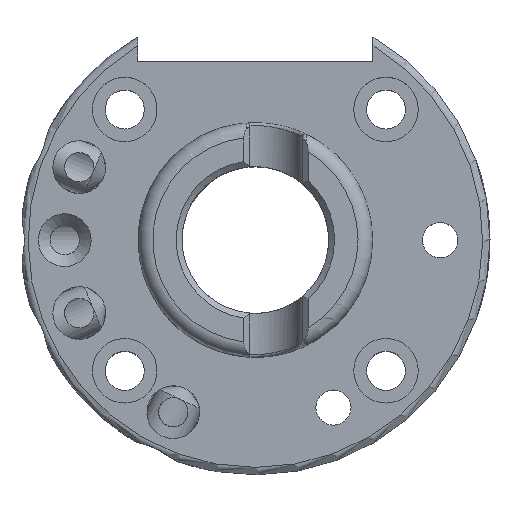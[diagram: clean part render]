
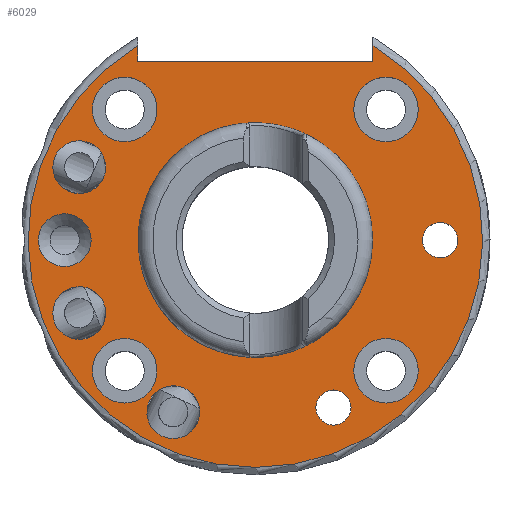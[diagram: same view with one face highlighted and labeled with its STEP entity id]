
A CAD part, top view. The second image highlights one B-rep face of the part: STEP entity #6029.
In plain terms, the highlighted planar face has unit normal (0, 0, 1).
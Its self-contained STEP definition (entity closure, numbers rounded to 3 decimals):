
#95=CIRCLE('',#6169,38.75);
#116=CIRCLE('',#6214,4.5);
#122=CIRCLE('',#6226,4.5);
#128=CIRCLE('',#6238,4.5);
#134=CIRCLE('',#6251,4.5);
#140=CIRCLE('',#6268,3.);
#142=CIRCLE('',#6271,3.);
#146=CIRCLE('',#6277,5.5);
#150=CIRCLE('',#6284,5.5);
#154=CIRCLE('',#6291,5.5);
#158=CIRCLE('',#6298,5.5);
#160=CIRCLE('',#6305,20.);
#202=FACE_BOUND('',#1050,.T.);
#203=FACE_BOUND('',#1051,.T.);
#204=FACE_BOUND('',#1052,.T.);
#205=FACE_BOUND('',#1053,.T.);
#206=FACE_BOUND('',#1054,.T.);
#207=FACE_BOUND('',#1055,.T.);
#208=FACE_BOUND('',#1056,.T.);
#209=FACE_BOUND('',#1057,.T.);
#210=FACE_BOUND('',#1058,.T.);
#211=FACE_BOUND('',#1059,.T.);
#212=FACE_BOUND('',#1060,.T.);
#689=FACE_OUTER_BOUND('',#1049,.T.);
#1049=EDGE_LOOP('',(#5363,#5364,#5365,#5366));
#1050=EDGE_LOOP('',(#5367));
#1051=EDGE_LOOP('',(#5368));
#1052=EDGE_LOOP('',(#5369));
#1053=EDGE_LOOP('',(#5370));
#1054=EDGE_LOOP('',(#5371));
#1055=EDGE_LOOP('',(#5372));
#1056=EDGE_LOOP('',(#5373));
#1057=EDGE_LOOP('',(#5374));
#1058=EDGE_LOOP('',(#5375));
#1059=EDGE_LOOP('',(#5376));
#1060=EDGE_LOOP('',(#5377));
#1487=LINE('',#13298,#1905);
#1489=LINE('',#13303,#1907);
#1492=LINE('',#13307,#1910);
#1905=VECTOR('',#7206,10.);
#1907=VECTOR('',#7210,10.);
#1910=VECTOR('',#7215,10.);
#2707=VERTEX_POINT('',#11182);
#2708=VERTEX_POINT('',#11193);
#2786=VERTEX_POINT('',#13014);
#2793=VERTEX_POINT('',#13074);
#2800=VERTEX_POINT('',#13134);
#2807=VERTEX_POINT('',#13195);
#2815=VERTEX_POINT('',#13230);
#2817=VERTEX_POINT('',#13236);
#2821=VERTEX_POINT('',#13247);
#2825=VERTEX_POINT('',#13260);
#2829=VERTEX_POINT('',#13273);
#2833=VERTEX_POINT('',#13286);
#2836=VERTEX_POINT('',#13296);
#2838=VERTEX_POINT('',#13302);
#2839=VERTEX_POINT('',#13309);
#3481=EDGE_CURVE('',#2707,#2708,#95,.T.);
#3606=EDGE_CURVE('',#2786,#2786,#116,.T.);
#3618=EDGE_CURVE('',#2793,#2793,#122,.T.);
#3630=EDGE_CURVE('',#2800,#2800,#128,.T.);
#3642=EDGE_CURVE('',#2807,#2807,#134,.T.);
#3658=EDGE_CURVE('',#2815,#2815,#140,.T.);
#3661=EDGE_CURVE('',#2817,#2817,#142,.T.);
#3666=EDGE_CURVE('',#2821,#2821,#146,.T.);
#3672=EDGE_CURVE('',#2825,#2825,#150,.T.);
#3678=EDGE_CURVE('',#2829,#2829,#154,.T.);
#3684=EDGE_CURVE('',#2833,#2833,#158,.T.);
#3690=EDGE_CURVE('',#2707,#2836,#1487,.T.);
#3692=EDGE_CURVE('',#2838,#2708,#1489,.T.);
#3695=EDGE_CURVE('',#2836,#2838,#1492,.T.);
#3696=EDGE_CURVE('',#2839,#2839,#160,.T.);
#5363=ORIENTED_EDGE('',*,*,#3690,.T.);
#5364=ORIENTED_EDGE('',*,*,#3695,.T.);
#5365=ORIENTED_EDGE('',*,*,#3692,.T.);
#5366=ORIENTED_EDGE('',*,*,#3481,.F.);
#5367=ORIENTED_EDGE('',*,*,#3606,.T.);
#5368=ORIENTED_EDGE('',*,*,#3618,.T.);
#5369=ORIENTED_EDGE('',*,*,#3630,.T.);
#5370=ORIENTED_EDGE('',*,*,#3642,.T.);
#5371=ORIENTED_EDGE('',*,*,#3658,.T.);
#5372=ORIENTED_EDGE('',*,*,#3661,.T.);
#5373=ORIENTED_EDGE('',*,*,#3666,.T.);
#5374=ORIENTED_EDGE('',*,*,#3672,.T.);
#5375=ORIENTED_EDGE('',*,*,#3678,.T.);
#5376=ORIENTED_EDGE('',*,*,#3684,.T.);
#5377=ORIENTED_EDGE('',*,*,#3696,.T.);
#5560=PLANE('',#6304);
#6029=ADVANCED_FACE('',(#689,#202,#203,#204,#205,#206,#207,#208,#209,#210,
#211,#212),#5560,.T.);
#6169=AXIS2_PLACEMENT_3D('',#11194,#6870,#6871);
#6214=AXIS2_PLACEMENT_3D('',#13015,#6996,#6997);
#6226=AXIS2_PLACEMENT_3D('',#13075,#7024,#7025);
#6238=AXIS2_PLACEMENT_3D('',#13135,#7052,#7053);
#6251=AXIS2_PLACEMENT_3D('',#13196,#7082,#7083);
#6268=AXIS2_PLACEMENT_3D('',#13231,#7126,#7127);
#6271=AXIS2_PLACEMENT_3D('',#13237,#7133,#7134);
#6277=AXIS2_PLACEMENT_3D('',#13248,#7146,#7147);
#6284=AXIS2_PLACEMENT_3D('',#13261,#7162,#7163);
#6291=AXIS2_PLACEMENT_3D('',#13274,#7178,#7179);
#6298=AXIS2_PLACEMENT_3D('',#13287,#7194,#7195);
#6304=AXIS2_PLACEMENT_3D('',#13308,#7216,#7217);
#6305=AXIS2_PLACEMENT_3D('',#13310,#7218,#7219);
#6870=DIRECTION('center_axis',(0.,0.,-1.));
#6871=DIRECTION('ref_axis',(1.,0.,0.));
#6996=DIRECTION('center_axis',(0.,0.,-1.));
#6997=DIRECTION('ref_axis',(0.431,0.903,0.));
#7024=DIRECTION('center_axis',(0.,0.,-1.));
#7025=DIRECTION('ref_axis',(0.924,0.383,0.));
#7052=DIRECTION('center_axis',(0.,0.,-1.));
#7053=DIRECTION('ref_axis',(0.924,-0.383,0.));
#7082=DIRECTION('center_axis',(0.,0.,-1.));
#7083=DIRECTION('ref_axis',(1.,0.,0.));
#7126=DIRECTION('center_axis',(0.,0.,-1.));
#7127=DIRECTION('ref_axis',(1.,0.,0.));
#7133=DIRECTION('center_axis',(0.,0.,-1.));
#7134=DIRECTION('ref_axis',(1.,0.,0.));
#7146=DIRECTION('center_axis',(0.,0.,-1.));
#7147=DIRECTION('ref_axis',(1.,0.,0.));
#7162=DIRECTION('center_axis',(0.,0.,-1.));
#7163=DIRECTION('ref_axis',(1.,0.,0.));
#7178=DIRECTION('center_axis',(0.,0.,-1.));
#7179=DIRECTION('ref_axis',(1.,0.,0.));
#7194=DIRECTION('center_axis',(0.,0.,-1.));
#7195=DIRECTION('ref_axis',(1.,0.,0.));
#7206=DIRECTION('',(0.,-1.,0.));
#7210=DIRECTION('',(0.,1.,0.));
#7215=DIRECTION('',(-1.,0.,0.));
#7216=DIRECTION('center_axis',(0.,0.,1.));
#7217=DIRECTION('ref_axis',(1.,0.,0.));
#7218=DIRECTION('center_axis',(0.,0.,-1.));
#7219=DIRECTION('ref_axis',(1.,0.,0.));
#11182=CARTESIAN_POINT('',(20.05,33.16,16.));
#11193=CARTESIAN_POINT('',(-20.05,33.16,16.));
#11194=CARTESIAN_POINT('Origin',(0.,0.,16.));
#13014=CARTESIAN_POINT('',(-15.929,-33.396,16.));
#13015=CARTESIAN_POINT('Origin',(-13.992,-29.334,16.));
#13074=CARTESIAN_POINT('',(-34.184,-14.159,16.));
#13075=CARTESIAN_POINT('Origin',(-30.026,-12.437,16.));
#13134=CARTESIAN_POINT('',(-34.184,14.159,16.));
#13135=CARTESIAN_POINT('Origin',(-30.026,12.437,16.));
#13195=CARTESIAN_POINT('',(-37.,0.,16.));
#13196=CARTESIAN_POINT('Origin',(-32.5,0.,16.));
#13230=CARTESIAN_POINT('',(10.312,-28.549,16.));
#13231=CARTESIAN_POINT('Origin',(13.312,-28.549,16.));
#13236=CARTESIAN_POINT('',(28.5,0.,16.));
#13237=CARTESIAN_POINT('Origin',(31.5,0.,16.));
#13247=CARTESIAN_POINT('',(16.774,22.274,16.));
#13248=CARTESIAN_POINT('Origin',(22.274,22.274,16.));
#13260=CARTESIAN_POINT('',(-27.774,-22.274,16.));
#13261=CARTESIAN_POINT('Origin',(-22.274,-22.274,16.));
#13273=CARTESIAN_POINT('',(16.774,-22.274,16.));
#13274=CARTESIAN_POINT('Origin',(22.274,-22.274,16.));
#13286=CARTESIAN_POINT('',(-27.774,22.274,16.));
#13287=CARTESIAN_POINT('Origin',(-22.274,22.274,16.));
#13296=CARTESIAN_POINT('',(20.05,30.5,16.));
#13298=CARTESIAN_POINT('',(20.05,20.,16.));
#13302=CARTESIAN_POINT('',(-20.05,30.5,16.));
#13303=CARTESIAN_POINT('',(-20.05,15.25,16.));
#13307=CARTESIAN_POINT('',(-9.35,30.5,16.));
#13308=CARTESIAN_POINT('Origin',(-38.75,0.,16.));
#13309=CARTESIAN_POINT('',(20.,0.,16.));
#13310=CARTESIAN_POINT('Origin',(0.,0.,16.));
